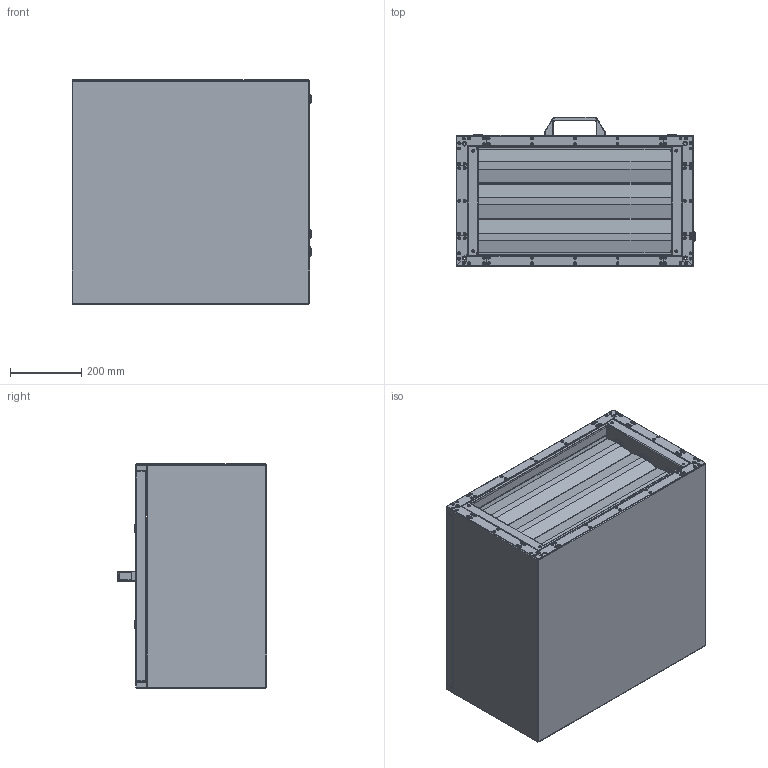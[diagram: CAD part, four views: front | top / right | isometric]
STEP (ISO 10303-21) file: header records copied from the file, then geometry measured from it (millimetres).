
FILE_DESCRIPTION (( 'STEP AP203' ), '1' );
FILE_NAME ('135881-00_SL6030E11010.STEP', '2016-03-22T11:36:39', ( '' ), ( '' ), 'SwSTEP 2.0', 'SolidWorks 2012', '' );
FILE_SCHEMA (( 'CONFIG_CONTROL_DESIGN' ));
Products named in the file (1): 135881-00_SL6030E11010
Bounding box: 673.75 x 419.1 x 632.6 mm (x, y, z)
Surface area: 3863663.1 mm2 (no closed solid volume)
Topology: 0 solids, 201 shells, 1029 faces, 3722 edges, 2786 vertices
Faces by surface type: cylinder 461, torus 266, plane 249, cone 24, bspline 23, sphere 6
Entity records: 42185 total; most frequent: CARTESIAN_POINT 9206, DIRECTION 7703, ORIENTED_EDGE 5286, EDGE_CURVE 3722, AXIS2_PLACEMENT_3D 3127, VERTEX_POINT 2786, CIRCLE 2120, VECTOR 1449
